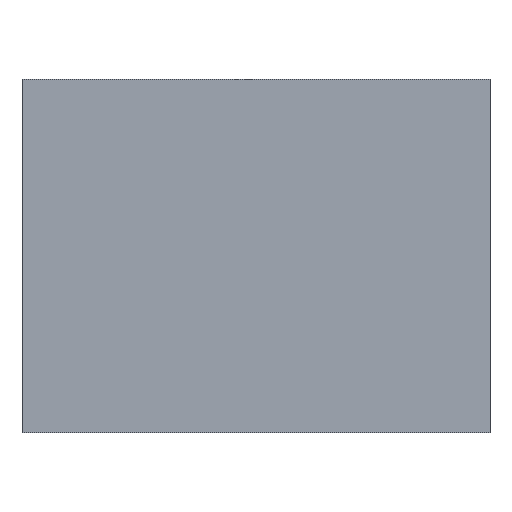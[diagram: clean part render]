
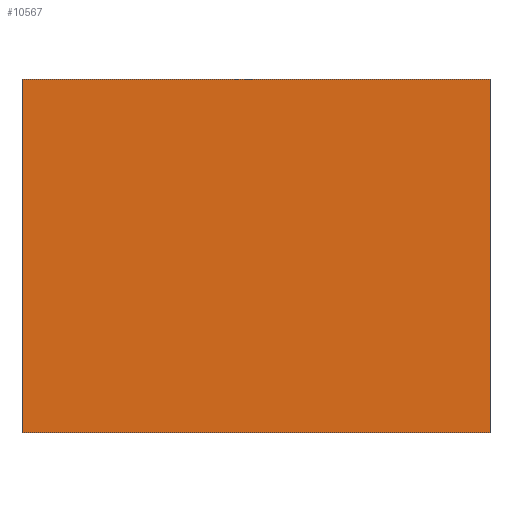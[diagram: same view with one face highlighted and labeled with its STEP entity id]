
A CAD part, top view. The second image highlights one B-rep face of the part: STEP entity #10567.
In plain terms, the highlighted planar face has unit normal (0, 0, 1).
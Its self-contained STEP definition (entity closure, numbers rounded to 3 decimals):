
#1157=ORIENTED_EDGE('',*,*,#4116,.F.);
#1158=ORIENTED_EDGE('',*,*,#4268,.F.);
#1159=ORIENTED_EDGE('',*,*,#4023,.T.);
#1160=ORIENTED_EDGE('',*,*,#4278,.T.);
#4023=EDGE_CURVE('',#5614,#5613,#6599,.T.);
#4116=EDGE_CURVE('',#5697,#5698,#6657,.T.);
#4268=EDGE_CURVE('',#5614,#5697,#6717,.T.);
#4278=EDGE_CURVE('',#5613,#5698,#6723,.T.);
#5613=VERTEX_POINT('',#15721);
#5614=VERTEX_POINT('',#15723);
#5697=VERTEX_POINT('',#15908);
#5698=VERTEX_POINT('',#15910);
#6599=LINE('',#15722,#7791);
#6657=LINE('',#15909,#7849);
#6717=LINE('',#16311,#7909);
#6723=LINE('',#16329,#7915);
#7791=VECTOR('',#12437,1000.);
#7849=VECTOR('',#12577,1000.);
#7909=VECTOR('',#12811,1000.);
#7915=VECTOR('',#12827,1000.);
#8938=EDGE_LOOP('',(#1157,#1158,#1159,#1160));
#9544=FACE_BOUND('',#8938,.T.);
#10122=PLANE('',#11475);
#10567=ADVANCED_FACE('',(#9544),#10122,.T.);
#11475=AXIS2_PLACEMENT_3D('',#16328,#12825,#12826);
#12437=DIRECTION('',(1.,0.,0.));
#12577=DIRECTION('',(1.,0.,0.));
#12811=DIRECTION('',(0.,1.,0.));
#12825=DIRECTION('',(0.,0.,1.));
#12826=DIRECTION('',(1.,0.,0.));
#12827=DIRECTION('',(0.,1.,0.));
#15721=CARTESIAN_POINT('',(19.453,-13.95,0.));
#15722=CARTESIAN_POINT('',(19.453,-13.95,0.));
#15723=CARTESIAN_POINT('',(-17.5,-13.95,0.));
#15908=CARTESIAN_POINT('',(-17.5,13.95,0.));
#15909=CARTESIAN_POINT('',(19.453,13.95,0.));
#15910=CARTESIAN_POINT('',(19.453,13.95,0.));
#16311=CARTESIAN_POINT('',(-17.5,-13.95,0.));
#16328=CARTESIAN_POINT('',(19.453,-13.95,0.));
#16329=CARTESIAN_POINT('',(19.453,-13.95,0.));
